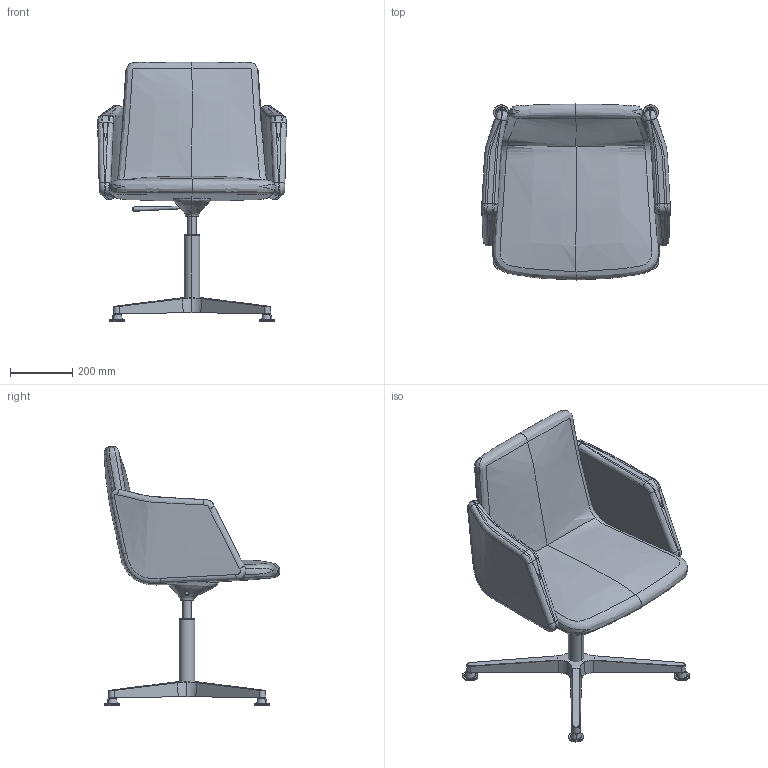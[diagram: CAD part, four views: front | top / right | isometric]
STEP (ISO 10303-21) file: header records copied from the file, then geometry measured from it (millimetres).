
FILE_DESCRIPTION(/* description */ (''),/* implementation_level */ '2;1');
FILE_NAME(/* name */ 'HA3B8A~1',/* time_stamp */ '2016-07-26T15:37:23+02:00',/* author */ (''),/* organization */ (''),/* preprocessor_version */ 'ST-DEVELOPER v15',/* originating_system */ '',/* authorisation */ '');
FILE_SCHEMA (('CONFIG_CONTROL_DESIGN'));
Length unit declared in the file: millimetre
Products named in the file (1): Document
Bounding box: 606.28 x 565.03 x 833.82 mm (x, y, z)
Surface area: 1595612.3 mm2 (no closed solid volume)
Topology: 0 solids, 21 shells, 205 faces, 482 edges, 292 vertices
Faces by surface type: bspline 190, plane 15
Entity records: 19827 total; most frequent: CARTESIAN_POINT 16951, ORIENTED_EDGE 832, EDGE_CURVE 475, B_SPLINE_CURVE_WITH_KNOTS 375, VERTEX_POINT 286, EDGE_LOOP 207, ADVANCED_FACE 205, FACE_OUTER_BOUND 205
